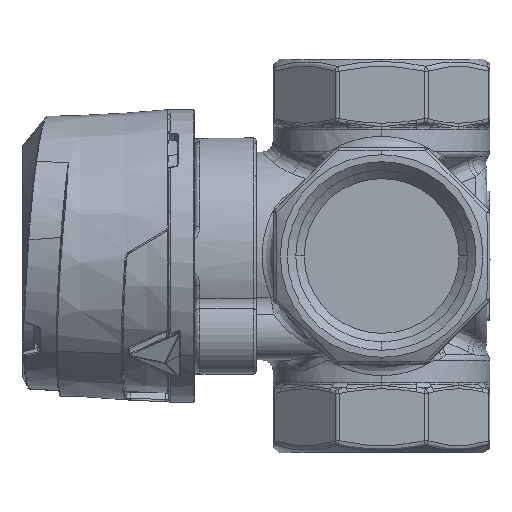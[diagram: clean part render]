
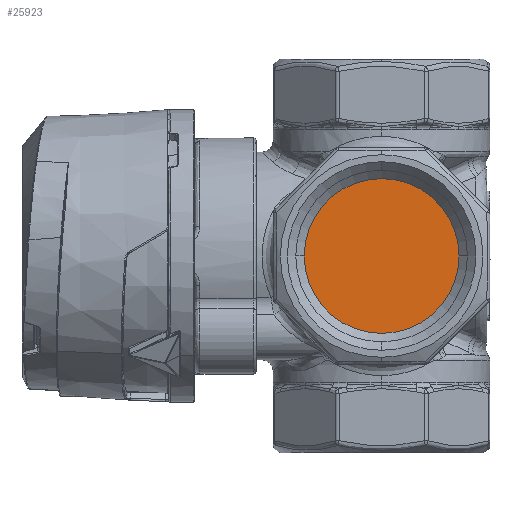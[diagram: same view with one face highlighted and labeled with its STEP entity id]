
A CAD part, left-side view. The second image highlights one B-rep face of the part: STEP entity #25923.
In plain terms, the highlighted planar face has unit normal (-1, 0, 0).
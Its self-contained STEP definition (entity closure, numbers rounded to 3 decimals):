
#2942 = CARTESIAN_POINT ( 'NONE',  ( -16.5, 0., 0. ) ) ;
#25923 = ADVANCED_FACE ( 'NONE', ( #112086 ), #87931, .T. ) ;
#27233 = AXIS2_PLACEMENT_3D ( 'NONE', #115357, #60075, #125956 ) ;
#28711 = ORIENTED_EDGE ( 'NONE', *, *, #39782, .T. ) ;
#39782 = EDGE_CURVE ( 'NONE', #101538, #102412, #96869, .T. ) ;
#44725 = DIRECTION ( 'NONE',  ( -1., 0., 0. ) ) ;
#51009 = CARTESIAN_POINT ( 'NONE',  ( -16.5, 13.75, 0. ) ) ;
#59437 = ORIENTED_EDGE ( 'NONE', *, *, #96141, .T. ) ;
#60075 = DIRECTION ( 'NONE',  ( -1., 0., 0. ) ) ;
#72082 = AXIS2_PLACEMENT_3D ( 'NONE', #124341, #78997, #132195 ) ;
#72500 = CIRCLE ( 'NONE', #27233, 13.75 ) ;
#78997 = DIRECTION ( 'NONE',  ( -1., 0., 0. ) ) ;
#84304 = CARTESIAN_POINT ( 'NONE',  ( -16.5, -13.75, 0. ) ) ;
#87931 = PLANE ( 'NONE',  #90658 ) ;
#90658 = AXIS2_PLACEMENT_3D ( 'NONE', #2942, #44725, #131235 ) ;
#96141 = EDGE_CURVE ( 'NONE', #102412, #101538, #72500, .T. ) ;
#96869 = CIRCLE ( 'NONE', #72082, 13.75 ) ;
#101538 = VERTEX_POINT ( 'NONE', #51009 ) ;
#102412 = VERTEX_POINT ( 'NONE', #84304 ) ;
#112086 = FACE_OUTER_BOUND ( 'NONE', #131420, .T. ) ;
#115357 = CARTESIAN_POINT ( 'NONE',  ( -16.5, 0., 0. ) ) ;
#124341 = CARTESIAN_POINT ( 'NONE',  ( -16.5, 0., 0. ) ) ;
#125956 = DIRECTION ( 'NONE',  ( 0., -1., 0. ) ) ;
#131235 = DIRECTION ( 'NONE',  ( 0., -1., 0. ) ) ;
#131420 = EDGE_LOOP ( 'NONE', ( #59437, #28711 ) ) ;
#132195 = DIRECTION ( 'NONE',  ( 0., -1., 0. ) ) ;
